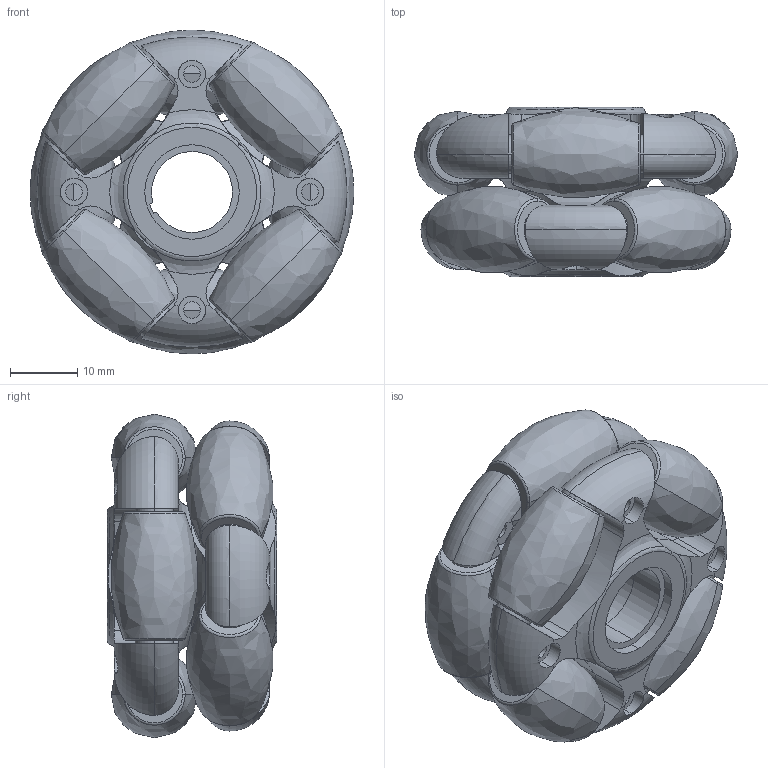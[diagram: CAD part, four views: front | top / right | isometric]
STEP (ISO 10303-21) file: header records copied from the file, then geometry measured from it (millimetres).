
FILE_DESCRIPTION((''),'2;1');
FILE_NAME('22-A_ASM','2012-11-27T',('Administrator'),(''),'PRO/ENGINEER BY PARAMETRIC TECHNOLOGY CORPORATION, 2009360','PRO/ENGINEER BY PARAMETRIC TECHNOLOGY CORPORATION, 2009360','');
FILE_SCHEMA(('CONFIG_CONTROL_DESIGN'));
Length unit declared in the file: millimetre
Products named in the file (15): G3; G8; X1-1; X2-1; X1-4; X1-5; X1-6; X1-7; G9_5; G8_1; G3_1; G11; X2-3; G9-7; 22-A_ASM
Assembly tree (29 placements, depth 2):
  22-A_ASM
    G3
    G8
    X1-1  x4
    X2-1  x4
    X1-4
    X1-5
    X1-6
    X1-7
    G9_5  x4
    G8_1
    G3_1
    G11
    X2-3  x4
    G9-7  x4
Bounding box: 47.98 x 25.1 x 47.98 mm (x, y, z)
Volume: 16703.3 mm3; surface area: 30252.5 mm2
Topology: 25 solids, 29 shells, 764 faces, 2139 edges, 1418 vertices
Faces by surface type: cylinder 292, plane 264, cone 92, torus 68, bspline 48
Entity records: 21933 total; most frequent: CARTESIAN_POINT 5738, DIRECTION 3383, ORIENTED_EDGE 3308, EDGE_CURVE 1743, AXIS2_PLACEMENT_3D 1343, VERTEX_POINT 1154, CIRCLE 727, VECTOR 697
